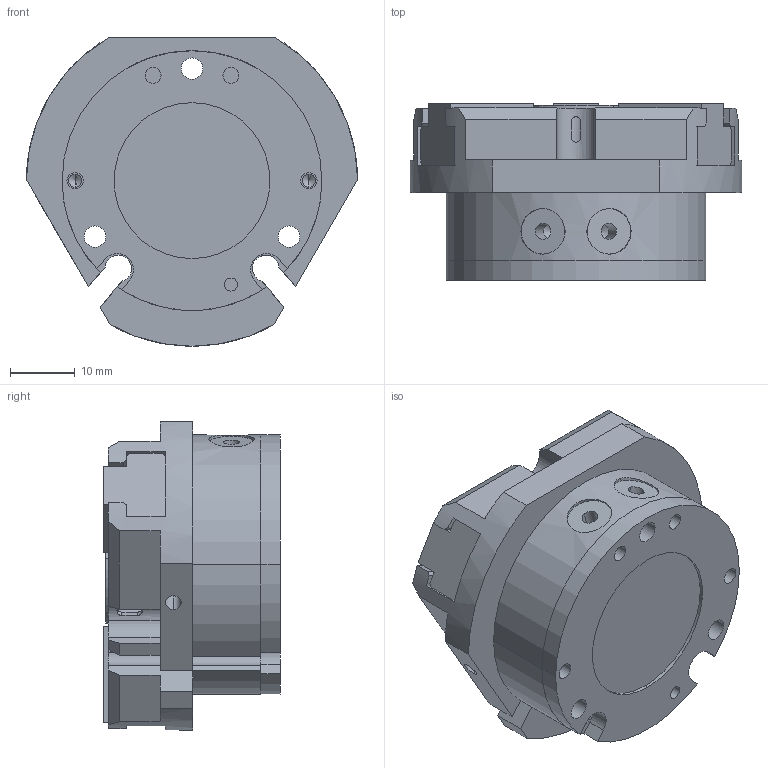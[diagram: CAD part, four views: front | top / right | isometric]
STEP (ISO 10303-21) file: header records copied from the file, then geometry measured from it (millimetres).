
FILE_DESCRIPTION (( 'STEP AP214' ), '1' );
FILE_NAME ('FCT-40A-1.STEP', '2020-07-07T10:38:54', ( '' ), ( '' ), 'SwSTEP 2.0', 'SolidWorks 2016', '' );
FILE_SCHEMA (( 'AUTOMOTIVE_DESIGN' ));
Length unit declared in the file: millimetre
Products named in the file (5): NAUO5; NAUO4; FCT-40A-1; NAUO2; NAUO1
Assembly tree (6 placements, depth 2):
  FCT-40A-1
    NAUO1
    NAUO2
    NAUO4
    NAUO5  x3
Bounding box: 51 x 27.2 x 47.5 mm (x, y, z)
Volume: 35518.3 mm3; surface area: 17123.8 mm2
Topology: 6 solids, 6 shells, 334 faces, 870 edges, 551 vertices
Faces by surface type: plane 160, cylinder 122, cone 52
Entity records: 8548 total; most frequent: CARTESIAN_POINT 1760, DIRECTION 1410, ORIENTED_EDGE 1348, EDGE_CURVE 674, AXIS2_PLACEMENT_3D 505, VERTEX_POINT 443, LINE 400, VECTOR 400
